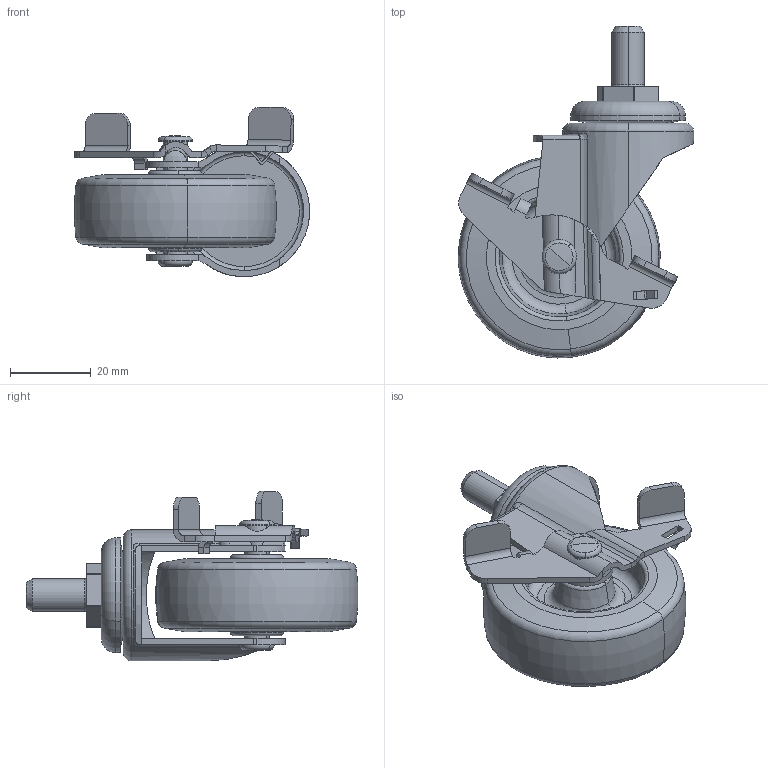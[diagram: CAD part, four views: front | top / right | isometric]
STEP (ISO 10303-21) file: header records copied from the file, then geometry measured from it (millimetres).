
FILE_DESCRIPTION (( 'STEP AP214' ), '1' );
FILE_NAME ('20142-202-52 佪諳价陬.STEP', '2019-12-10T00:12:29', ( 'Owner' ), ( 'Organization' ), 'SwSTEP 2.0', 'SolidWorks 2014', '' );
FILE_SCHEMA (( 'AUTOMOTIVE_DESIGN' ));
Length unit declared in the file: millimetre
Products named in the file (7): 260A-14A 耜价; 20142-202-52 佪諳价陬; 20炵蹈 价陬穩隊; 260-23B 佪諳M8x15; 202A-12A; 202-52; 200-03A 詩俖
Assembly tree (6 placements, depth 2):
  20142-202-52 佪諳价陬
    260-23B 佪諳M8x15
    200-03A 詩俖
    202A-12A
    260A-14A 耜价
    20炵蹈 价陬穩隊
    202-52
Bounding box: 58.12 x 81.99 x 41.88 mm (x, y, z)
Volume: 37486.7 mm3; surface area: 19624.3 mm2
Topology: 7 solids, 7 shells, 254 faces, 604 edges, 369 vertices
Faces by surface type: plane 94, cylinder 77, torus 53, cone 18, bspline 8, sphere 4
Entity records: 8228 total; most frequent: CARTESIAN_POINT 2082, DIRECTION 1279, ORIENTED_EDGE 1204, EDGE_CURVE 602, AXIS2_PLACEMENT_3D 504, VERTEX_POINT 368, VECTOR 271, LINE 271
